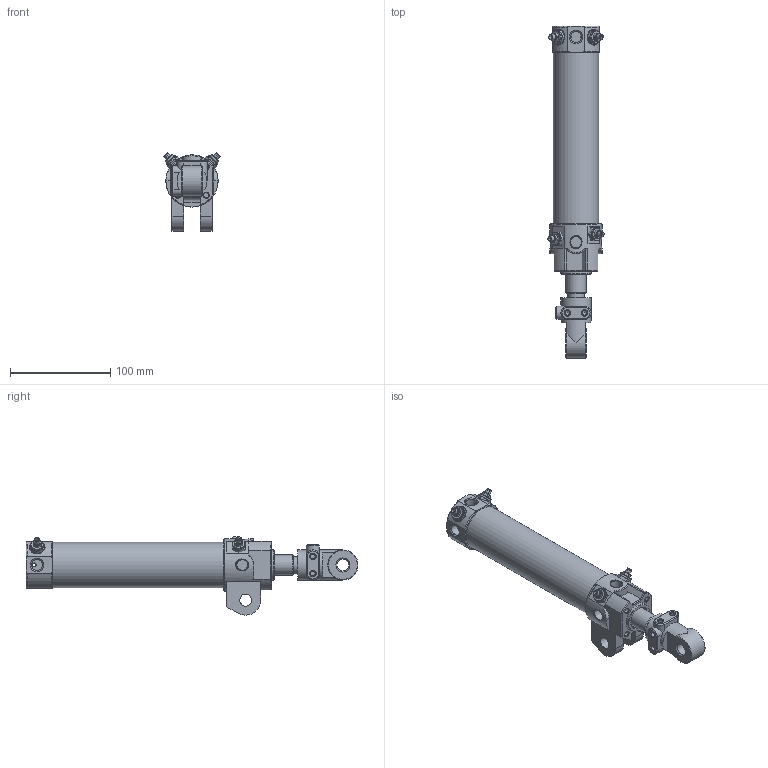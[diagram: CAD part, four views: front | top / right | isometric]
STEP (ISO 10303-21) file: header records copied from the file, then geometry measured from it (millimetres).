
FILE_DESCRIPTION((''),'2;1');
FILE_NAME('I:\3D電子目錄\氣缸\DCK\DCK\DCK-1A-40x125-I.stp','2008-02-26T10:52:40',('Administrator'),(''),'Autodesk Inventor 11','Autodesk Inventor 11','');
FILE_SCHEMA(('AUTOMOTIVE_DESIGN { 1 0 10303 214 1 1 1 1 }'));
Length unit declared in the file: millimetre
Products named in the file (6): DCK-1A-40-I; 緩衝針; 緩衝針-1; 緩衝針-201; 緩衝針-3
Assembly tree (8 placements, depth 3):
  DCK-1A-40-I
    DCK-1A-40-I
    緩衝針  x4
      緩衝針-1
      緩衝針-201
      緩衝針-3
Bounding box: 56.06 x 331 x 78.02 mm (x, y, z)
Volume: 241612.6 mm3; surface area: 109975.8 mm2
Topology: 16 solids, 16 shells, 688 faces, 1580 edges, 982 vertices
Faces by surface type: plane 234, cylinder 209, cone 144, bspline 64, torus 35, sphere 2
Full cylindrical faces by diameter (mm): 2 x1, 3 x3, 3.8 x2, 4 x6, 4.6 x4, 5 x8, 5.1 x4, 5.2 x12, 5.5 x4, 7 x1, 7.25 x1, 7.9 x4, 8 x2, 8.3 x1, 10 x2, 12 x3, 12.8 x4, 16 x3, 20 x1, 21 x1, 22 x3, 23 x1, 24.7 x1, 26 x1, 28 x1, 29 x1, 30 x3, 33 x1, 40 x1, 42 x2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
Entity records: 24212 total; most frequent: CARTESIAN_POINT 14980, DIRECTION 1810, ORIENTED_EDGE 1772, EDGE_CURVE 886, AXIS2_PLACEMENT_3D 781, EDGE_LOOP 625, VERTEX_POINT 617, FACE_OUTER_BOUND 437
